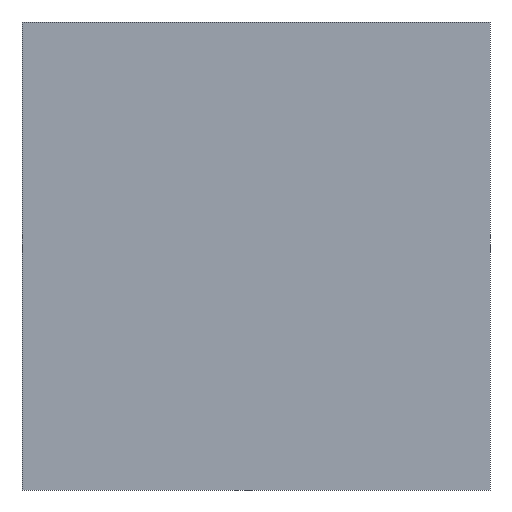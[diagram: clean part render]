
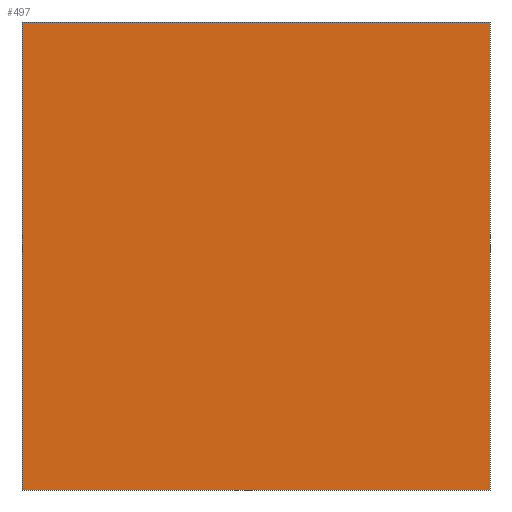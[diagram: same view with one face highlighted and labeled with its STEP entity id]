
A CAD part, front view. The second image highlights one B-rep face of the part: STEP entity #497.
In plain terms, the highlighted planar face has unit normal (0, -1, 0).
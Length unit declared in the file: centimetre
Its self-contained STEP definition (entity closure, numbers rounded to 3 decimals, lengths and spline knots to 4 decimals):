
#1 = EDGE_CURVE ( 'NONE', #476, #122, #484, .T. ) ;
#2 = FACE_OUTER_BOUND ( 'NONE', #204, .T. ) ;
#4 = DIRECTION ( 'NONE',  ( 0., 0., 1. ) ) ;
#8 = EDGE_CURVE ( 'NONE', #150, #467, #405, .T. ) ;
#12 = DIRECTION ( 'NONE',  ( 1., 0., 0. ) ) ;
#22 = LINE ( 'NONE', #176, #82 ) ;
#30 = LINE ( 'NONE', #374, #371 ) ;
#39 = ORIENTED_EDGE ( 'NONE', *, *, #8, .T. ) ;
#82 = VECTOR ( 'NONE', #340, 100. ) ;
#88 = VECTOR ( 'NONE', #361, 100. ) ;
#109 = VECTOR ( 'NONE', #12, 100. ) ;
#122 = VERTEX_POINT ( 'NONE', #280 ) ;
#128 = CARTESIAN_POINT ( 'NONE',  ( 0., 0., 0. ) ) ;
#150 = VERTEX_POINT ( 'NONE', #205 ) ;
#162 = EDGE_CURVE ( 'NONE', #122, #467, #22, .T. ) ;
#168 = EDGE_CURVE ( 'NONE', #476, #150, #30, .T. ) ;
#171 = ORIENTED_EDGE ( 'NONE', *, *, #1, .F. ) ;
#176 = CARTESIAN_POINT ( 'NONE',  ( 1000., 0., 1000. ) ) ;
#204 = EDGE_LOOP ( 'NONE', ( #39, #235, #171, #266 ) ) ;
#205 = CARTESIAN_POINT ( 'NONE',  ( 0., 0., 0. ) ) ;
#235 = ORIENTED_EDGE ( 'NONE', *, *, #162, .F. ) ;
#239 = CARTESIAN_POINT ( 'NONE',  ( 1000., 0., 0. ) ) ;
#250 = DIRECTION ( 'NONE',  ( 0., 1., 0. ) ) ;
#266 = ORIENTED_EDGE ( 'NONE', *, *, #168, .T. ) ;
#280 = CARTESIAN_POINT ( 'NONE',  ( 1000., 0., 1000. ) ) ;
#288 = CARTESIAN_POINT ( 'NONE',  ( 0., 0., 1000. ) ) ;
#334 = DIRECTION ( 'NONE',  ( 0., 0., -1. ) ) ;
#340 = DIRECTION ( 'NONE',  ( 0., 0., -1. ) ) ;
#361 = DIRECTION ( 'NONE',  ( 1., 0., 0. ) ) ;
#363 = CARTESIAN_POINT ( 'NONE',  ( 0., 0., 1000. ) ) ;
#371 = VECTOR ( 'NONE', #334, 100. ) ;
#374 = CARTESIAN_POINT ( 'NONE',  ( 0., 0., 1000. ) ) ;
#397 = CARTESIAN_POINT ( 'NONE',  ( 0., 0., 1000. ) ) ;
#405 = LINE ( 'NONE', #128, #109 ) ;
#444 = PLANE ( 'NONE',  #448 ) ;
#448 = AXIS2_PLACEMENT_3D ( 'NONE', #363, #250, #4 ) ;
#467 = VERTEX_POINT ( 'NONE', #239 ) ;
#476 = VERTEX_POINT ( 'NONE', #397 ) ;
#484 = LINE ( 'NONE', #288, #88 ) ;
#497 = ADVANCED_FACE ( 'NONE', ( #2 ), #444, .F. ) ;
